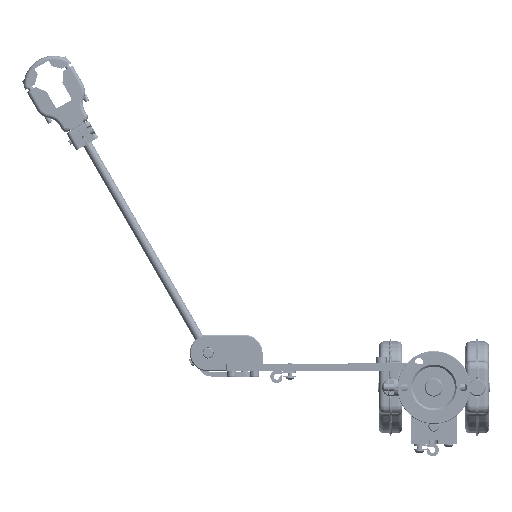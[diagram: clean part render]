
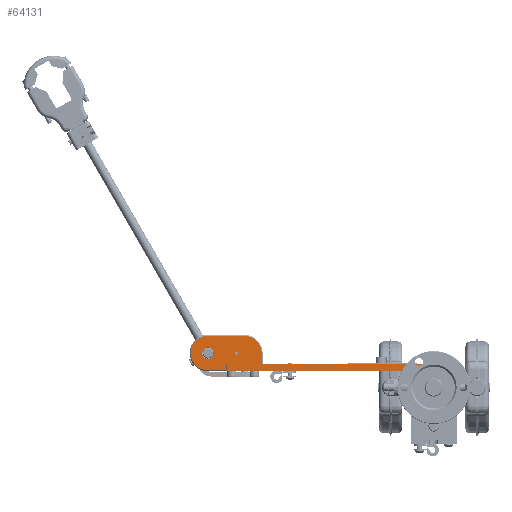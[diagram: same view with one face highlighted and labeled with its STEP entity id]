
A CAD part, front view. The second image highlights one B-rep face of the part: STEP entity #64131.
In plain terms, the highlighted planar face has unit normal (0, -1, 0) by its records, which use the part's own axes.
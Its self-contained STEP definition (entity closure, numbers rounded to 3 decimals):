
#11654=CARTESIAN_POINT('',(17.75,340.,17.75));
#11655=DIRECTION('',(0.,1.,0.));
#11656=DIRECTION('',(0.,0.,1.));
#11657=AXIS2_PLACEMENT_3D('',#11654,#11655,#11656);
#11993=CARTESIAN_POINT('',(-17.75,340.,17.75));
#11994=DIRECTION('',(0.,1.,0.));
#11995=DIRECTION('',(-1.,0.,0.));
#11996=AXIS2_PLACEMENT_3D('',#11993,#11994,#11995);
#12006=DIRECTION('',(-1.,0.,0.));
#12007=VECTOR('',#12006,35.5);
#12008=CARTESIAN_POINT('',(17.75,340.,19.75));
#12009=LINE('',#12008,#12007);
#15018=CARTESIAN_POINT('',(-248.,340.,37.75));
#15019=DIRECTION('',(0.,-1.,0.));
#15020=DIRECTION('',(1.,0.,0.));
#15021=AXIS2_PLACEMENT_3D('',#15018,#15019,#15020);
#15023=CARTESIAN_POINT('',(-248.,340.,37.75));
#15024=DIRECTION('',(0.,-1.,0.));
#15025=DIRECTION('',(-1.,0.,0.));
#15026=AXIS2_PLACEMENT_3D('',#15023,#15024,#15025);
#15028=CARTESIAN_POINT('',(-217.,340.,37.75));
#15029=DIRECTION('',(0.,-1.,0.));
#15030=DIRECTION('',(-1.,0.,0.));
#15031=AXIS2_PLACEMENT_3D('',#15028,#15029,#15030);
#15033=CARTESIAN_POINT('',(-217.,340.,37.75));
#15034=DIRECTION('',(0.,-1.,0.));
#15035=DIRECTION('',(1.,0.,0.));
#15036=AXIS2_PLACEMENT_3D('',#15033,#15034,#15035);
#15038=DIRECTION('',(0.,0.,1.));
#15039=VECTOR('',#15038,8.);
#15040=CARTESIAN_POINT('',(-227.,340.,17.75));
#15041=LINE('',#15040,#15039);
#15042=CARTESIAN_POINT('',(-248.,340.,37.75));
#15043=DIRECTION('',(0.,1.,0.));
#15044=DIRECTION('',(0.,0.,-1.));
#15045=AXIS2_PLACEMENT_3D('',#15042,#15043,#15044);
#15047=CARTESIAN_POINT('',(-208.,340.,37.75));
#15048=DIRECTION('',(0.,1.,0.));
#15049=DIRECTION('',(0.,0.,1.));
#15050=AXIS2_PLACEMENT_3D('',#15047,#15048,#15049);
#15052=DIRECTION('',(1.,0.,0.));
#15053=VECTOR('',#15052,210.);
#15054=CARTESIAN_POINT('',(-189.,340.,25.75));
#15055=LINE('',#15054,#15053);
#15056=DIRECTION('',(0.,0.,-1.));
#15057=VECTOR('',#15056,8.);
#15058=CARTESIAN_POINT('',(21.,340.,25.75));
#15059=LINE('',#15058,#15057);
#15060=DIRECTION('',(-1.,0.,0.));
#15061=VECTOR('',#15060,1.25);
#15062=CARTESIAN_POINT('',(21.,340.,17.75));
#15063=LINE('',#15062,#15061);
#15064=DIRECTION('',(-1.,0.,0.));
#15065=VECTOR('',#15064,207.25);
#15066=CARTESIAN_POINT('',(-19.75,340.,17.75));
#15067=LINE('',#15066,#15065);
#15844=DIRECTION('',(1.,0.,0.));
#15845=VECTOR('',#15844,20.);
#15846=CARTESIAN_POINT('',(-248.,340.,18.75));
#15847=LINE('',#15846,#15845);
#15852=DIRECTION('',(0.,0.,1.));
#15853=VECTOR('',#15852,7.);
#15854=CARTESIAN_POINT('',(-228.,340.,18.75));
#15855=LINE('',#15854,#15853);
#15888=DIRECTION('',(1.,0.,0.));
#15889=VECTOR('',#15888,1.);
#15890=CARTESIAN_POINT('',(-228.,340.,25.75));
#15891=LINE('',#15890,#15889);
#15892=DIRECTION('',(0.,0.,1.));
#15893=VECTOR('',#15892,12.);
#15894=CARTESIAN_POINT('',(-189.,340.,25.75));
#15895=LINE('',#15894,#15893);
#15909=DIRECTION('',(-1.,0.,0.));
#15910=VECTOR('',#15909,40.);
#15911=CARTESIAN_POINT('',(-208.,340.,56.75));
#15912=LINE('',#15911,#15910);
#33302=CARTESIAN_POINT('',(21.,340.,25.75));
#33303=VERTEX_POINT('',#33302);
#33384=CARTESIAN_POINT('',(21.,340.,17.75));
#33386=VERTEX_POINT('',#33384);
#33532=CARTESIAN_POINT('',(-218.65,340.,37.75));
#33533=CARTESIAN_POINT('',(-215.35,340.,37.75));
#33534=VERTEX_POINT('',#33532);
#33535=VERTEX_POINT('',#33533);
#33536=CARTESIAN_POINT('',(-248.,340.,18.75));
#33537=CARTESIAN_POINT('',(-228.,340.,18.75));
#33538=VERTEX_POINT('',#33536);
#33539=VERTEX_POINT('',#33537);
#33540=CARTESIAN_POINT('',(-248.,340.,56.75));
#33541=VERTEX_POINT('',#33540);
#33542=CARTESIAN_POINT('',(-208.,340.,56.75));
#33543=VERTEX_POINT('',#33542);
#33544=CARTESIAN_POINT('',(-189.,340.,37.75));
#33545=VERTEX_POINT('',#33544);
#33546=CARTESIAN_POINT('',(-228.,340.,25.75));
#33547=VERTEX_POINT('',#33546);
#33548=CARTESIAN_POINT('',(-254.3,340.,37.75));
#33549=CARTESIAN_POINT('',(-241.7,340.,37.75));
#33550=VERTEX_POINT('',#33548);
#33551=VERTEX_POINT('',#33549);
#38481=CARTESIAN_POINT('',(-19.75,340.,17.75));
#38483=VERTEX_POINT('',#38481);
#38489=CARTESIAN_POINT('',(17.75,340.,19.75));
#38490=CARTESIAN_POINT('',(-17.75,340.,19.75));
#38491=VERTEX_POINT('',#38489);
#38492=VERTEX_POINT('',#38490);
#38495=CARTESIAN_POINT('',(19.75,340.,17.75));
#38496=VERTEX_POINT('',#38495);
#38517=CARTESIAN_POINT('',(-227.,340.,17.75));
#38518=VERTEX_POINT('',#38517);
#38537=CARTESIAN_POINT('',(-189.,340.,25.75));
#38538=VERTEX_POINT('',#38537);
#38539=CARTESIAN_POINT('',(-227.,340.,25.75));
#38541=VERTEX_POINT('',#38539);
#64088=CARTESIAN_POINT('',(-103.,340.,21.75));
#64089=DIRECTION('',(0.,1.,0.));
#64090=DIRECTION('',(1.,0.,0.));
#64091=AXIS2_PLACEMENT_3D('',#64088,#64089,#64090);
#64092=PLANE('',#64091);
#64093=ORIENTED_EDGE('',*,*,#63828,.T.);
#64095=ORIENTED_EDGE('',*,*,#64094,.F.);
#64097=ORIENTED_EDGE('',*,*,#64096,.F.);
#64099=ORIENTED_EDGE('',*,*,#64098,.F.);
#64101=ORIENTED_EDGE('',*,*,#64100,.T.);
#64103=ORIENTED_EDGE('',*,*,#64102,.F.);
#64105=ORIENTED_EDGE('',*,*,#64104,.T.);
#64107=ORIENTED_EDGE('',*,*,#64106,.F.);
#64109=ORIENTED_EDGE('',*,*,#64108,.T.);
#64111=ORIENTED_EDGE('',*,*,#64110,.T.);
#64112=ORIENTED_EDGE('',*,*,#63850,.T.);
#64113=ORIENTED_EDGE('',*,*,#58261,.F.);
#64114=ORIENTED_EDGE('',*,*,#58946,.T.);
#64115=ORIENTED_EDGE('',*,*,#58925,.F.);
#64116=ORIENTED_EDGE('',*,*,#63892,.T.);
#64117=EDGE_LOOP('',(#64093,#64095,#64097,#64099,#64101,#64103,#64105,#64107,
#64109,#64111,#64112,#64113,#64114,#64115,#64116));
#64118=FACE_OUTER_BOUND('',#64117,.F.);
#64120=ORIENTED_EDGE('',*,*,#64119,.T.);
#64122=ORIENTED_EDGE('',*,*,#64121,.T.);
#64123=EDGE_LOOP('',(#64120,#64122));
#64124=FACE_BOUND('',#64123,.F.);
#64126=ORIENTED_EDGE('',*,*,#64125,.T.);
#64128=ORIENTED_EDGE('',*,*,#64127,.T.);
#64129=EDGE_LOOP('',(#64126,#64128));
#64130=FACE_BOUND('',#64129,.F.);
#11658=CIRCLE('',#11657,2.);
#11997=CIRCLE('',#11996,2.);
#15022=CIRCLE('',#15021,6.3);
#15027=CIRCLE('',#15026,6.3);
#15032=CIRCLE('',#15031,1.65);
#15037=CIRCLE('',#15036,1.65);
#15046=CIRCLE('',#15045,19.);
#15051=CIRCLE('',#15050,19.);
#58261=EDGE_CURVE('',#38491,#38496,#11658,.T.);
#58925=EDGE_CURVE('',#38483,#38492,#11997,.T.);
#58946=EDGE_CURVE('',#38491,#38492,#12009,.T.);
#63828=EDGE_CURVE('',#38518,#38541,#15041,.T.);
#63850=EDGE_CURVE('',#33386,#38496,#15063,.T.);
#63892=EDGE_CURVE('',#38483,#38518,#15067,.T.);
#64094=EDGE_CURVE('',#33547,#38541,#15891,.T.);
#64096=EDGE_CURVE('',#33539,#33547,#15855,.T.);
#64098=EDGE_CURVE('',#33538,#33539,#15847,.T.);
#64100=EDGE_CURVE('',#33538,#33541,#15046,.T.);
#64102=EDGE_CURVE('',#33543,#33541,#15912,.T.);
#64104=EDGE_CURVE('',#33543,#33545,#15051,.T.);
#64106=EDGE_CURVE('',#38538,#33545,#15895,.T.);
#64108=EDGE_CURVE('',#38538,#33303,#15055,.T.);
#64110=EDGE_CURVE('',#33303,#33386,#15059,.T.);
#64119=EDGE_CURVE('',#33534,#33535,#15032,.T.);
#64121=EDGE_CURVE('',#33535,#33534,#15037,.T.);
#64125=EDGE_CURVE('',#33551,#33550,#15022,.T.);
#64127=EDGE_CURVE('',#33550,#33551,#15027,.T.);
#64131=ADVANCED_FACE('',(#64118,#64124,#64130),#64092,.F.);
